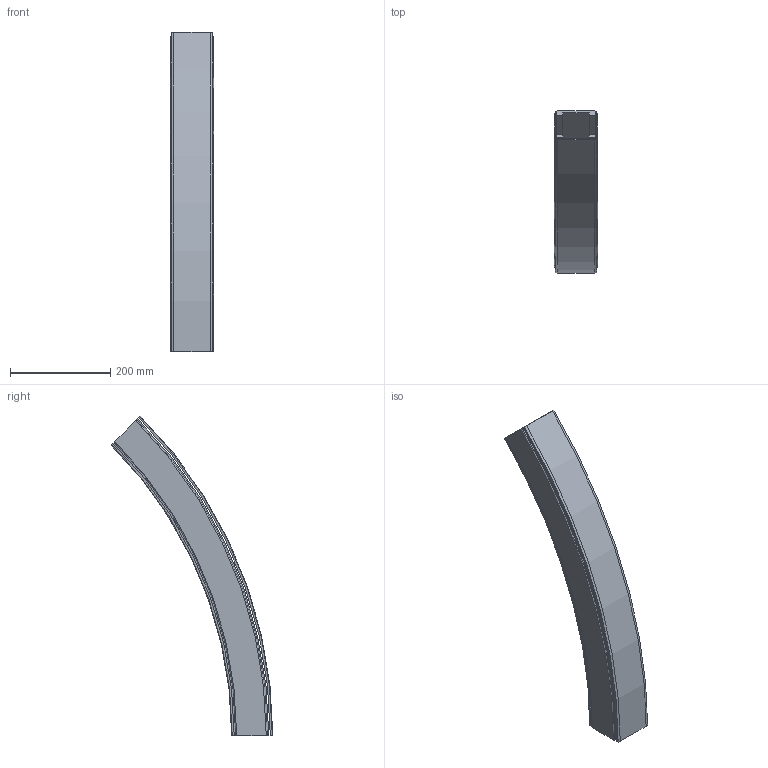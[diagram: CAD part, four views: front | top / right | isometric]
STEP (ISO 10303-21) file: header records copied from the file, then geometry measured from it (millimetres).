
FILE_DESCRIPTION((''),'2;1');
FILE_NAME('C:\Vault Klient\Projekt\Koncept konstruktion\Serie 530 Balk\530-5670_UP.stp','2010-11-23T14:24:27',('Mathias'),(''),'Autodesk Inventor 2011','Autodesk Inventor 2011','');
FILE_SCHEMA(('AUTOMOTIVE_DESIGN { 1 0 10303 214 1 1 1 1 }'));
Length unit declared in the file: millimetre
Products named in the file (1): 530-5670_UP
Bounding box: 86 x 322.32 x 638.16 mm (x, y, z)
Volume: 1003700.2 mm3; surface area: 490360.8 mm2
Topology: 2 solids, 2 shells, 87 faces, 234 edges, 156 vertices
Faces by surface type: plane 40, cylinder 25, bspline 14, cone 4, torus 4
Entity records: 3194 total; most frequent: CARTESIAN_POINT 956, ORIENTED_EDGE 468, DIRECTION 428, EDGE_CURVE 234, VERTEX_POINT 156, AXIS2_PLACEMENT_3D 148, VECTOR 132, LINE 132
